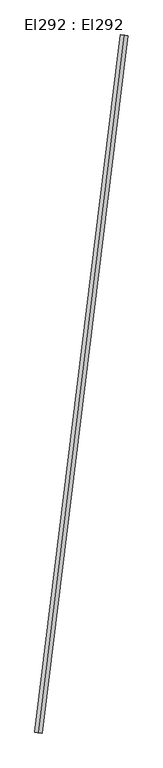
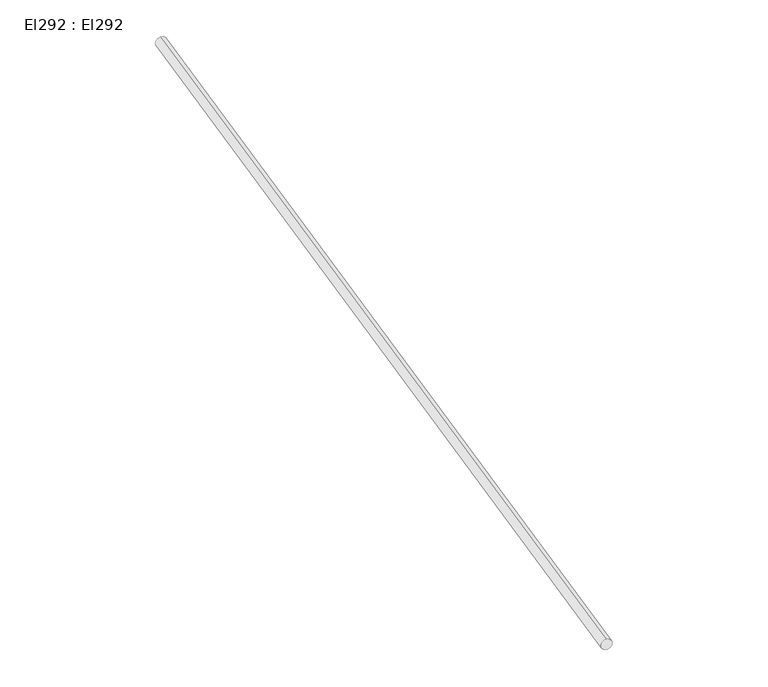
"""IFC4 building model written with IfcOpenShell, lengths in millimetres: cable carrier segment geometry, El292 : El292."""

from ifc_helpers import new_model, si_unit, point, frame, frame_2d, origin, place, context, project, spatial, circle_curve, trimmed, segment, composite_curve, outline, extrude, source, transform, mapped, element, save


def el292_el292_1258799a(model_context):
    return source(origin(), model_context, "Body", "SweptSolid", [
        extrude(outline(composite_curve([segment(trimmed(circle_curve(frame_2d((0.0, -9.5)), 9.5), [point((0.0, -19.0))], [point((0.0, 0.0))], False, "CARTESIAN"), True, "CONTINUOUS"), segment(trimmed(circle_curve(frame_2d((0.0, -9.5)), 9.5), [point((0.0, 0.0))], [point((0.0, -19.0))], False, "CARTESIAN"), True, "CONTINUOUS")], self_intersect=False)), frame((15184.6116173, 14766.2836091, 2959.5), z_axis=(0.12222899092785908, 0.9925019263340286, 0.0), x_axis=(-0.9925019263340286, 0.12222899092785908, 0.0)), (0.0, 0.0, 1.0), 1747.33),
    ])


if __name__ == "__main__":
    model = new_model("IFC4")
    model_context = context("Model", 3, world=origin())
    ifc_project = project(units=[si_unit("LENGTHUNIT", "METRE", prefix="MILLI")], contexts=[model_context])
    site = spatial("IfcSite", under=ifc_project)
    building = spatial("IfcBuilding", under=site)
    placement = place(None, origin())
    el292_el292_shape = el292_el292_1258799a(model_context)
    element("IfcCableCarrierSegment", 1, ObjectType="El292 : El292", at=placement, inside=building, context=model_context, shape_type="MappedRepresentation", body=[
        mapped(el292_el292_shape, transform((0.0, 0.0, 0.0), x_axis=(1.0, 0.0, 0.0), y_axis=(0.0, 1.0, 0.0), z_axis=(0.0, 0.0, 1.0))),
    ])
    save(model, "model.ifc")
